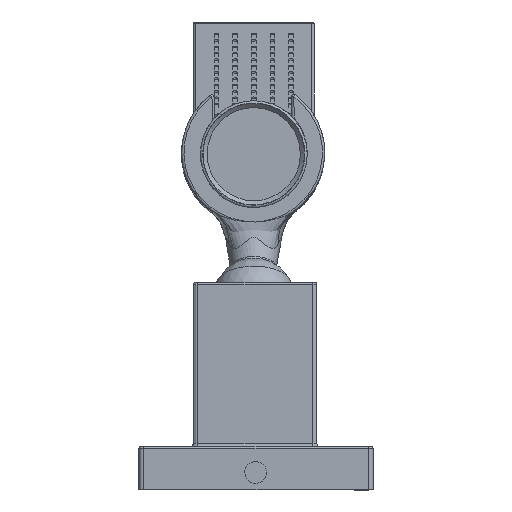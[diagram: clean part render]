
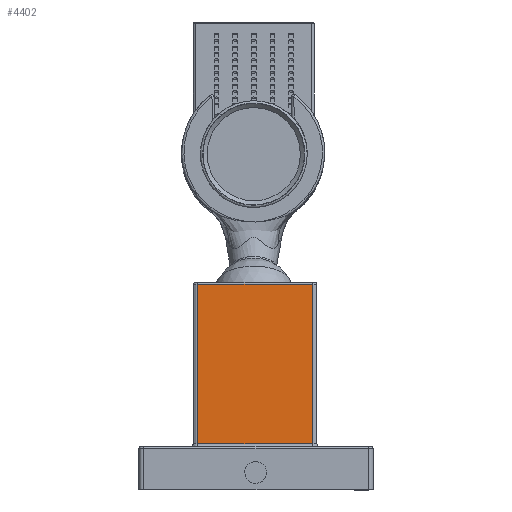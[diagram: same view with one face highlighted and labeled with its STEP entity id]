
A CAD part, front view. The second image highlights one B-rep face of the part: STEP entity #4402.
In plain terms, the highlighted planar face has unit normal (0, -1, 0).
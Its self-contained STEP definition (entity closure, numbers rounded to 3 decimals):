
#737=FACE_OUTER_BOUND('',#1023,.T.);
#1023=EDGE_LOOP('',(#2850,#2851,#2852,#2853));
#1383=LINE('',#7513,#1561);
#1384=LINE('',#7515,#1562);
#1385=LINE('',#7517,#1563);
#1386=LINE('',#7518,#1564);
#1561=VECTOR('',#5384,10.);
#1562=VECTOR('',#5385,10.);
#1563=VECTOR('',#5386,10.);
#1564=VECTOR('',#5387,10.);
#1748=VERTEX_POINT('',#7511);
#1749=VERTEX_POINT('',#7512);
#1750=VERTEX_POINT('',#7514);
#1751=VERTEX_POINT('',#7516);
#2183=EDGE_CURVE('',#1748,#1749,#1383,.T.);
#2184=EDGE_CURVE('',#1749,#1750,#1384,.T.);
#2185=EDGE_CURVE('',#1750,#1751,#1385,.T.);
#2186=EDGE_CURVE('',#1751,#1748,#1386,.T.);
#2850=ORIENTED_EDGE('',*,*,#2183,.T.);
#2851=ORIENTED_EDGE('',*,*,#2184,.T.);
#2852=ORIENTED_EDGE('',*,*,#2185,.T.);
#2853=ORIENTED_EDGE('',*,*,#2186,.T.);
#4008=PLANE('',#4724);
#4402=ADVANCED_FACE('',(#737),#4008,.T.);
#4724=AXIS2_PLACEMENT_3D('',#7510,#5382,#5383);
#5382=DIRECTION('center_axis',(0.,-1.,0.));
#5383=DIRECTION('ref_axis',(0.,0.,-1.));
#5384=DIRECTION('',(0.,0.,1.));
#5385=DIRECTION('',(-1.,0.,0.));
#5386=DIRECTION('',(0.,0.,-1.));
#5387=DIRECTION('',(1.,0.,0.));
#7510=CARTESIAN_POINT('Origin',(24.951,-38.618,-5.157));
#7511=CARTESIAN_POINT('',(37.252,-38.618,1.));
#7512=CARTESIAN_POINT('',(37.252,-38.618,35.276));
#7513=CARTESIAN_POINT('',(37.252,-38.618,1.));
#7514=CARTESIAN_POINT('',(12.65,-38.618,35.276));
#7515=CARTESIAN_POINT('',(37.252,-38.618,35.276));
#7516=CARTESIAN_POINT('',(12.65,-38.618,1.));
#7517=CARTESIAN_POINT('',(12.65,-38.618,35.276));
#7518=CARTESIAN_POINT('',(12.65,-38.618,1.));
